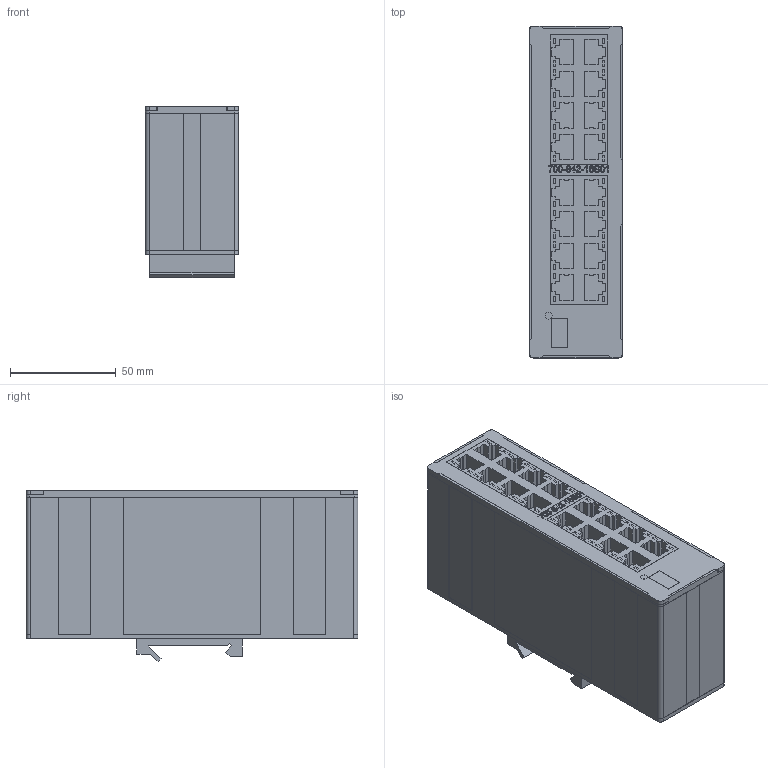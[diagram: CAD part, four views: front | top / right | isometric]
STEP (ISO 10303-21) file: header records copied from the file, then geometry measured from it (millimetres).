
FILE_DESCRIPTION (( 'STEP AP214' ), '1' );
FILE_NAME ('VSCF_700-842-16S01_V00-00.STEP', '2025-02-28T08:34:44', ( '' ), ( '' ), 'SwSTEP 2.0', 'SolidWorks 2025', '' );
FILE_SCHEMA (( 'AUTOMOTIVE_DESIGN' ));
Length unit declared in the file: millimetre
Products named in the file (1): VSCF_700-842-16S01_V00-00
Bounding box: 44.1 x 157.2 x 81.14 mm (x, y, z)
Volume: 473457.6 mm3; surface area: 52302.2 mm2
Topology: 14 solids, 14 shells, 796 faces, 2142 edges, 1428 vertices
Faces by surface type: plane 689, bspline 91, cylinder 16
Entity records: 37674 total; most frequent: CARTESIAN_POINT 10138, ORIENTED_EDGE 4284, DIRECTION 3405, EDGE_CURVE 2142, LINE 1927, VECTOR 1927, VERTEX_POINT 1428, EDGE_LOOP 864
